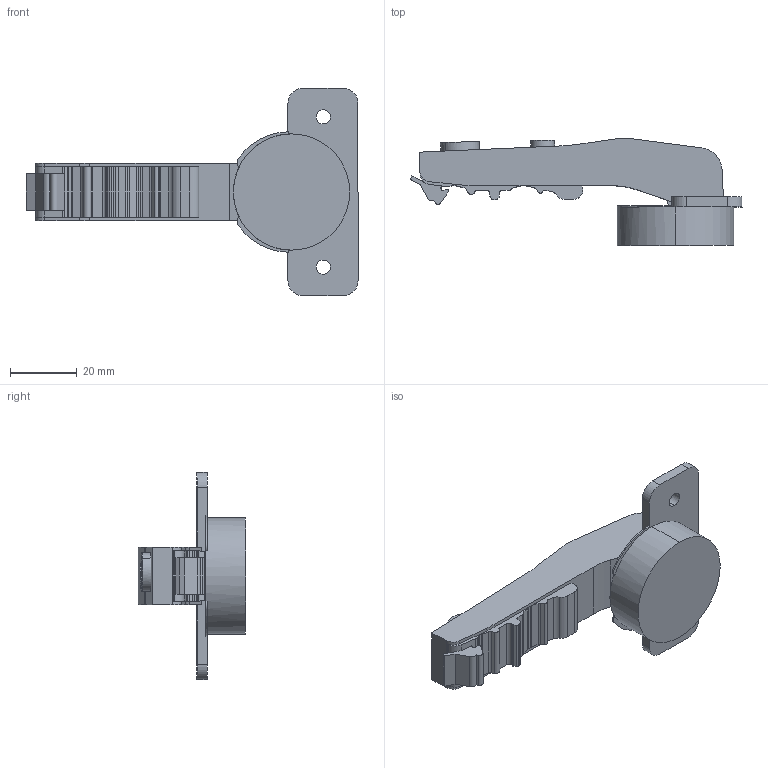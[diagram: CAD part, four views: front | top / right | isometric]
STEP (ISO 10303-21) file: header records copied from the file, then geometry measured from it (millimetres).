
FILE_DESCRIPTION (( 'STEP AP214' ), '1' );
FILE_NAME ('C82J675FA-Close.STEP', '2025-07-21T07:29:57', ( '微软用户' ), ( '微软中国' ), 'SwSTEP 2.0', 'SolidWorks 2021', '' );
FILE_SCHEMA (( 'AUTOMOTIVE_DESIGN' ));
Length unit declared in the file: millimetre
Products named in the file (1): C82J675FA-Close
Bounding box: 99.31 x 32.04 x 61.96 mm (x, y, z)
Volume: 36495.4 mm3; surface area: 11228.4 mm2
Topology: 1 solids, 1 shells, 127 faces, 369 edges, 246 vertices
Faces by surface type: plane 64, cylinder 63
Entity records: 4275 total; most frequent: CARTESIAN_POINT 761, DIRECTION 747, ORIENTED_EDGE 738, EDGE_CURVE 369, AXIS2_PLACEMENT_3D 256, VERTEX_POINT 246, LINE 235, VECTOR 235
